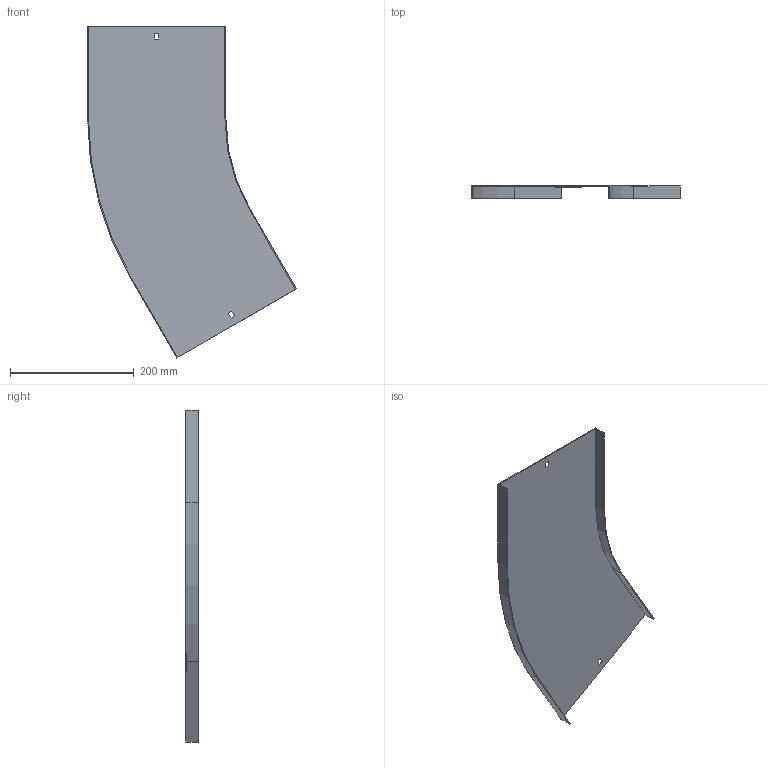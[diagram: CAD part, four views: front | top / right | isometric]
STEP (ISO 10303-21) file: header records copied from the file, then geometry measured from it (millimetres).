
FILE_DESCRIPTION (( 'STEP AP214' ), '1' );
FILE_NAME ('12N3P200.step', '2025-02-21T13:33:47', ( '' ), ( '' ), 'SwSTEP 2.0', 'SolidWorks 2023', '' );
FILE_SCHEMA (( 'AUTOMOTIVE_DESIGN' ));
Length unit declared in the file: millimetre
Products named in the file (1): 12N3P200
Bounding box: 336.65 x 20 x 535.65 mm (x, y, z)
Volume: 198505.9 mm3; surface area: 267075.9 mm2
Topology: 1 solids, 1 shells, 26 faces, 72 edges, 48 vertices
Faces by surface type: plane 22, cylinder 4
Entity records: 855 total; most frequent: CARTESIAN_POINT 147, ORIENTED_EDGE 144, DIRECTION 134, EDGE_CURVE 72, LINE 64, VECTOR 64, VERTEX_POINT 48, AXIS2_PLACEMENT_3D 35
